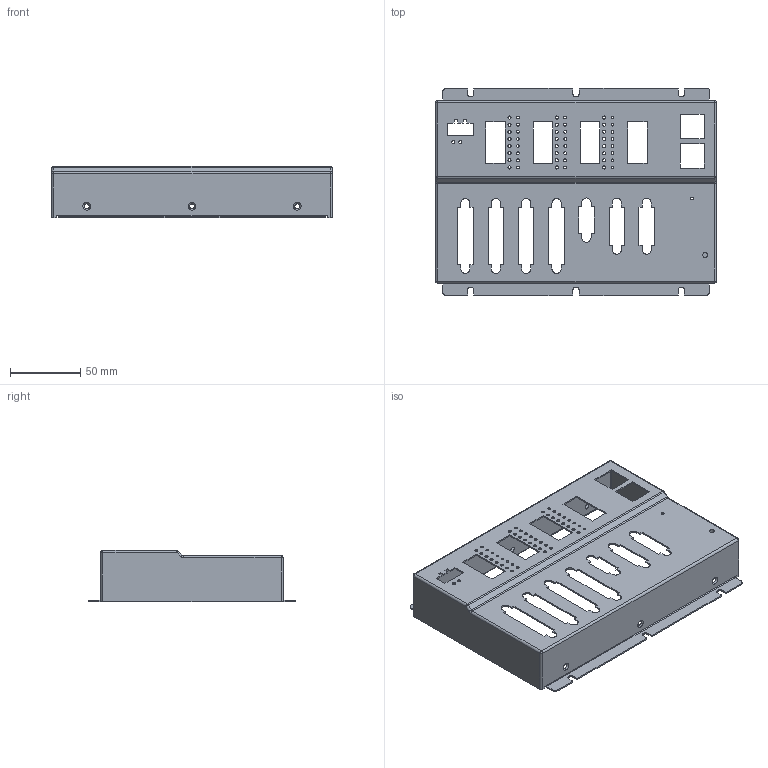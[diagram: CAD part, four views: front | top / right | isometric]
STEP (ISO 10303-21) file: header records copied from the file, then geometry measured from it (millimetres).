
FILE_DESCRIPTION((''),'2;1');
FILE_NAME('GCN400A_X1_TOPCOVER','2025-11-03T15:55:16',('Administrator'),(''),'CREO PARAMETRIC BY PTC INC, 2020033','CREO PARAMETRIC BY PTC INC, 2020033','');
FILE_SCHEMA(('CONFIG_CONTROL_DESIGN'));
Length unit declared in the file: millimetre
Products named in the file (1): GCN400A_X1_TOPCOVER
Bounding box: 200 x 148 x 36.4 mm (x, y, z)
Volume: 45332.6 mm3; surface area: 93124.5 mm2
Topology: 1 solids, 1 shells, 362 faces, 1022 edges, 664 vertices
Faces by surface type: cylinder 174, plane 160, sphere 12, cone 12, torus 4
Entity records: 12088 total; most frequent: DIRECTION 2122, CARTESIAN_POINT 2048, ORIENTED_EDGE 2044, EDGE_CURVE 1022, AXIS2_PLACEMENT_3D 738, VERTEX_POINT 664, VECTOR 646, LINE 646
